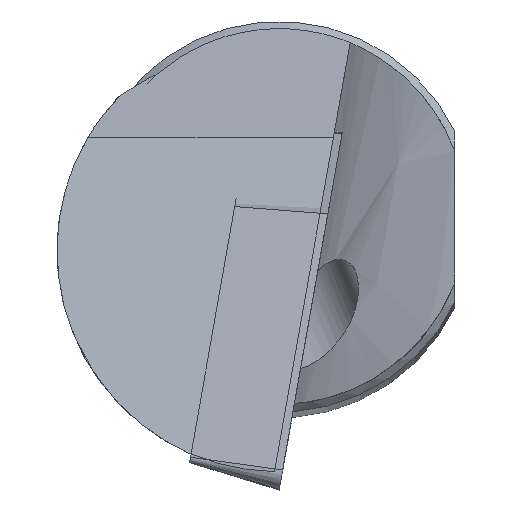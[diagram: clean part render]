
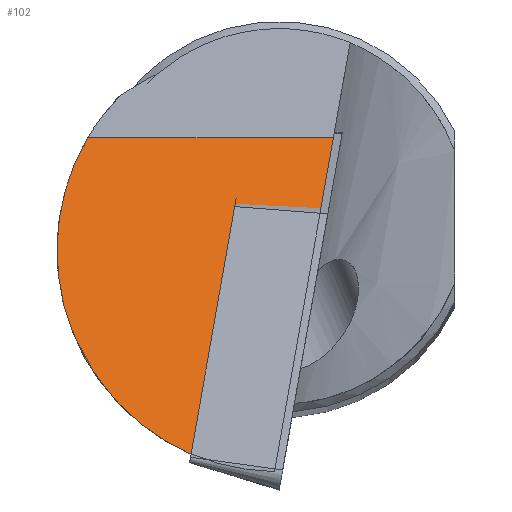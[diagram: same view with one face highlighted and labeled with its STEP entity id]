
A CAD part, top view. The second image highlights one B-rep face of the part: STEP entity #102.
In plain terms, the highlighted planar face has unit normal (0, 0.305, 0.952).
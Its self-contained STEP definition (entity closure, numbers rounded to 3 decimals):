
#25=ELLIPSE('',#435,6.246,5.918);
#26=ELLIPSE('',#437,5.968,5.683);
#102=ADVANCED_FACE('',(#136),#120,.F.);
#120=PLANE('',#438);
#136=FACE_OUTER_BOUND('',#157,.T.);
#157=EDGE_LOOP('',(#222,#223,#224,#225));
#222=ORIENTED_EDGE('',*,*,#345,.T.);
#223=ORIENTED_EDGE('',*,*,#346,.F.);
#224=ORIENTED_EDGE('',*,*,#347,.T.);
#225=ORIENTED_EDGE('',*,*,#348,.F.);
#300=VERTEX_POINT('',#726);
#303=VERTEX_POINT('',#735);
#304=VERTEX_POINT('',#739);
#305=VERTEX_POINT('',#741);
#345=EDGE_CURVE('',#300,#303,#25,.T.);
#346=EDGE_CURVE('',#304,#303,#383,.T.);
#347=EDGE_CURVE('',#304,#305,#384,.T.);
#348=EDGE_CURVE('',#300,#305,#26,.T.);
#383=LINE('',#738,#408);
#384=LINE('',#740,#409);
#408=VECTOR('',#514,1.);
#409=VECTOR('',#515,1.);
#435=AXIS2_PLACEMENT_3D('',#736,#510,#511);
#437=AXIS2_PLACEMENT_3D('',#742,#516,#517);
#438=AXIS2_PLACEMENT_3D('',#743,#518,#519);
#510=DIRECTION('',(0.,0.305,0.952));
#511=DIRECTION('',(0.,-0.952,0.305));
#514=DIRECTION('',(-0.166,-0.939,0.301));
#515=DIRECTION('',(-1.,0.,0.));
#516=DIRECTION('',(0.,-0.305,-0.952));
#517=DIRECTION('',(0.,-0.952,0.305));
#518=DIRECTION('',(0.,-0.305,-0.952));
#519=DIRECTION('',(0.,0.952,-0.305));
#726=CARTESIAN_POINT('',(-2.254,-6.101,-0.146));
#735=CARTESIAN_POINT('',(-0.119,-6.548,-0.003));
#736=CARTESIAN_POINT('',(0.,-0.6,-1.907));
#738=CARTESIAN_POINT('',(0.369,-3.782,-0.889));
#739=CARTESIAN_POINT('',(1.388,2.,-2.74));
#740=CARTESIAN_POINT('',(-6.55,2.,-2.74));
#741=CARTESIAN_POINT('',(-4.898,2.,-2.74));
#742=CARTESIAN_POINT('',(0.,-0.883,-1.817));
#743=CARTESIAN_POINT('',(-6.55,12.347,-6.053));
